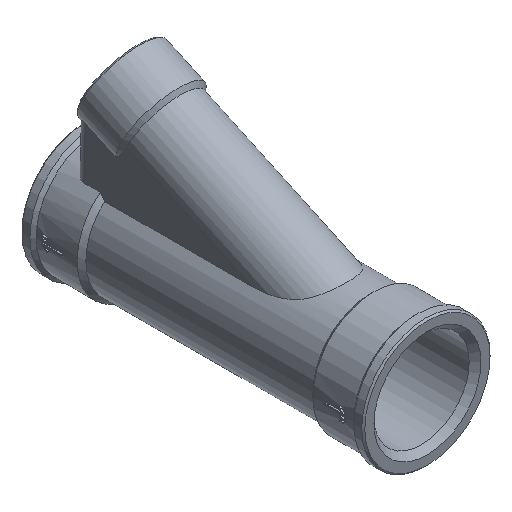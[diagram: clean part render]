
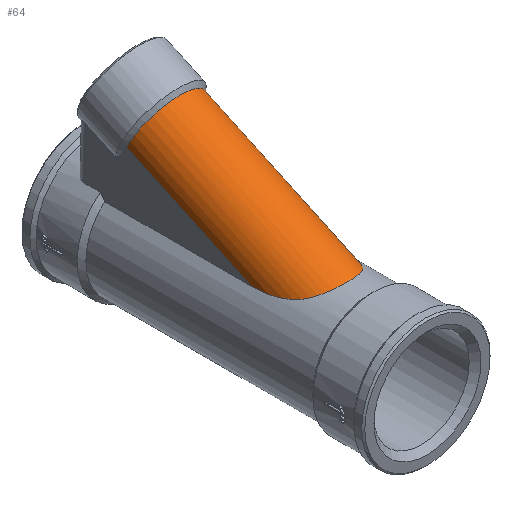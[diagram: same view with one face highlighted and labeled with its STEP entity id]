
A CAD part, isometric view. The second image highlights one B-rep face of the part: STEP entity #64.
In plain terms, the highlighted cylindrical face has radius 12 mm (diameter 24 mm), a partial arc.
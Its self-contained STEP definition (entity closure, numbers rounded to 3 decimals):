
#64=ADVANCED_FACE('',(#398),#400,.T.);
#398=FACE_BOUND('',#399,.T.);
#399=EDGE_LOOP('',(#1649,#1650,#1651,#1652));
#400=CYLINDRICAL_SURFACE('',#401,12.);
#401=AXIS2_PLACEMENT_3D('',#402,#403,#404);
#402=CARTESIAN_POINT('',(0.,0.,0.));
#403=DIRECTION('',(0.,0.906,0.423));
#404=DIRECTION('',(-1.,0.,0.));
#1649=ORIENTED_EDGE('',*,*,#2719,.F.);
#1650=ORIENTED_EDGE('',*,*,#2736,.T.);
#1651=ORIENTED_EDGE('',*,*,#2739,.T.);
#1652=ORIENTED_EDGE('',*,*,#2721,.T.);
#2719=EDGE_CURVE('',#3220,#3218,#3222,.F.);
#2721=EDGE_CURVE('',#3225,#3218,#3226,.T.);
#2736=EDGE_CURVE('',#3220,#3248,#3250,.F.);
#2739=EDGE_CURVE('',#3248,#3225,#3255,.T.);
#3218=VERTEX_POINT('',#4466);
#3220=VERTEX_POINT('',#4506);
#3222=CIRCLE('',#4537,12.);
#3225=VERTEX_POINT('',#4545);
#3226=LINE('',#4546,#4547);
#3248=VERTEX_POINT('',#4668);
#3250=LINE('',#4672,#4673);
#3255=B_SPLINE_CURVE_WITH_KNOTS('',3,
(#4685,#4686,#4687,#4688,#4689,#4690,#4691,#4692,#4693,#4694,#4695,#4696,#4697,#4698,
#4699,#4700,#4701,#4702,#4703,#4704,#4705,#4706,#4707,#4708,#4709,#4710,#4711,#4712,
#4713,#4714,#4715,#4716,#4717,#4718,#4719,#4720,#4721,#4722,#4723,#4724,#4725,#4726,
#4727,#4728,#4729,#4730,#4731,#4732,#4733,#4734,#4735,#4736,#4737,#4738,#4739,#4740,
#4741,#4742,#4743,#4744,#4745,#4746,#4747,#4748,#4749,#4750,#4751,#4752,#4753,#4754,
#4755,#4756,#4757,#4758,#4759,#4760,#4761,#4762,#4763,#4764,#4765,#4766,#4767,#4768,
#4769,#4770),
.UNSPECIFIED.,.F.,.F.,
(4,1,1,1,1,1,1,1,1,1,1,1,1,1,1,1,1,1,1,1,1,1,1,1,1,1,1,1,1,1,1,1,1,1,1,1,1,1,1,1,
1,1,1,1,1,1,1,1,1,1,1,1,1,1,1,1,1,1,1,1,1,1,1,1,1,1,1,1,1,1,1,1,1,1,1,1,1,1,1,1,
1,1,1,4),
(0.,0.004,0.01,0.021,0.037,
0.06,0.086,0.107,0.123,0.134,
0.143,0.152,0.161,0.17,0.179,
0.188,0.197,0.207,0.216,0.225,
0.234,0.242,0.251,0.262,0.273,
0.284,0.291,0.299,0.307,0.315,
0.328,0.346,0.368,0.39,0.407,
0.422,0.436,0.453,0.471,0.491,
0.5,0.51,0.53,0.549,0.57,
0.591,0.61,0.628,0.645,0.66,
0.672,0.681,0.691,0.701,0.712,
0.719,0.726,0.732,0.739,0.746,
0.752,0.762,0.771,0.781,0.789,
0.796,0.808,0.819,0.831,0.84,
0.85,0.86,0.87,0.881,0.891,
0.903,0.914,0.926,0.938,0.95,
0.962,0.974,0.987,1.),
.UNSPECIFIED.);
#4466=CARTESIAN_POINT('',(12.,68.472,31.929));
#4506=CARTESIAN_POINT('',(-12.,68.472,31.929));
#4537=AXIS2_PLACEMENT_3D('',#4538,#4539,#4540);
#4538=CARTESIAN_POINT('',(0.,68.472,31.929));
#4539=DIRECTION('',(0.,-0.906,-0.423));
#4540=DIRECTION('',(1.,0.,0.));
#4545=CARTESIAN_POINT('',(12.,28.772,13.416));
#4546=CARTESIAN_POINT('',(12.,28.772,13.416));
#4547=VECTOR('',#4548,1.);
#4548=DIRECTION('',(0.,0.906,0.423));
#4668=CARTESIAN_POINT('',(-12.,28.772,13.416));
#4672=CARTESIAN_POINT('',(-12.,28.772,13.416));
#4673=VECTOR('',#4674,1.);
#4674=DIRECTION('',(0.,0.906,0.423));
#4685=CARTESIAN_POINT('',(-12.,28.772,13.416));
#4686=CARTESIAN_POINT('',(-12.,28.704,13.416));
#4687=CARTESIAN_POINT('',(-12.,28.53,13.417));
#4688=CARTESIAN_POINT('',(-11.998,28.175,13.418));
#4689=CARTESIAN_POINT('',(-11.991,27.602,13.425));
#4690=CARTESIAN_POINT('',(-11.971,26.748,13.443));
#4691=CARTESIAN_POINT('',(-11.924,25.635,13.484));
#4692=CARTESIAN_POINT('',(-11.845,24.441,13.554));
#4693=CARTESIAN_POINT('',(-11.743,23.369,13.642));
#4694=CARTESIAN_POINT('',(-11.645,22.564,13.726));
#4695=CARTESIAN_POINT('',(-11.561,21.968,13.797));
#4696=CARTESIAN_POINT('',(-11.486,21.491,13.859));
#4697=CARTESIAN_POINT('',(-11.407,21.038,13.924));
#4698=CARTESIAN_POINT('',(-11.322,20.594,13.993));
#4699=CARTESIAN_POINT('',(-11.228,20.146,14.069));
#4700=CARTESIAN_POINT('',(-11.125,19.696,14.151));
#4701=CARTESIAN_POINT('',(-11.012,19.245,14.239));
#4702=CARTESIAN_POINT('',(-10.889,18.798,14.333));
#4703=CARTESIAN_POINT('',(-10.756,18.356,14.433));
#4704=CARTESIAN_POINT('',(-10.614,17.922,14.538));
#4705=CARTESIAN_POINT('',(-10.462,17.498,14.648));
#4706=CARTESIAN_POINT('',(-10.301,17.085,14.762));
#4707=CARTESIAN_POINT('',(-10.131,16.683,14.879));
#4708=CARTESIAN_POINT('',(-9.935,16.256,15.011));
#4709=CARTESIAN_POINT('',(-9.708,15.806,15.159));
#4710=CARTESIAN_POINT('',(-9.446,15.339,15.323));
#4711=CARTESIAN_POINT('',(-9.196,14.936,15.474));
#4712=CARTESIAN_POINT('',(-8.963,14.591,15.611));
#4713=CARTESIAN_POINT('',(-8.744,14.291,15.734));
#4714=CARTESIAN_POINT('',(-8.507,13.988,15.864));
#4715=CARTESIAN_POINT('',(-8.2,13.626,16.025));
#4716=CARTESIAN_POINT('',(-7.763,13.161,16.244));
#4717=CARTESIAN_POINT('',(-7.124,12.578,16.537));
#4718=CARTESIAN_POINT('',(-6.319,11.982,16.863));
#4719=CARTESIAN_POINT('',(-5.45,11.475,17.163));
#4720=CARTESIAN_POINT('',(-4.644,11.101,17.396));
#4721=CARTESIAN_POINT('',(-3.911,10.827,17.575));
#4722=CARTESIAN_POINT('',(-3.178,10.605,17.723));
#4723=CARTESIAN_POINT('',(-2.365,10.418,17.851));
#4724=CARTESIAN_POINT('',(-1.449,10.277,17.95));
#4725=CARTESIAN_POINT('',(-0.645,10.216,17.994));
#4726=CARTESIAN_POINT('',(0.017,10.204,18.002));
#4727=CARTESIAN_POINT('',(0.679,10.217,17.993));
#4728=CARTESIAN_POINT('',(1.522,10.284,17.945));
#4729=CARTESIAN_POINT('',(2.531,10.447,17.831));
#4730=CARTESIAN_POINT('',(3.532,10.698,17.66));
#4731=CARTESIAN_POINT('',(4.49,11.032,17.44));
#4732=CARTESIAN_POINT('',(5.362,11.431,17.19));
#4733=CARTESIAN_POINT('',(6.135,11.872,16.928));
#4734=CARTESIAN_POINT('',(6.805,12.336,16.669));
#4735=CARTESIAN_POINT('',(7.356,12.787,16.431));
#4736=CARTESIAN_POINT('',(7.785,13.19,16.231));
#4737=CARTESIAN_POINT('',(8.134,13.554,16.059));
#4738=CARTESIAN_POINT('',(8.447,13.913,15.896));
#4739=CARTESIAN_POINT('',(8.755,14.302,15.729));
#4740=CARTESIAN_POINT('',(9.02,14.672,15.578));
#4741=CARTESIAN_POINT('',(9.241,15.009,15.447));
#4742=CARTESIAN_POINT('',(9.419,15.297,15.34));
#4743=CARTESIAN_POINT('',(9.58,15.578,15.239));
#4744=CARTESIAN_POINT('',(9.733,15.86,15.142));
#4745=CARTESIAN_POINT('',(9.882,16.152,15.045));
#4746=CARTESIAN_POINT('',(10.043,16.489,14.938));
#4747=CARTESIAN_POINT('',(10.214,16.875,14.822));
#4748=CARTESIAN_POINT('',(10.391,17.312,14.698));
#4749=CARTESIAN_POINT('',(10.547,17.73,14.587));
#4750=CARTESIAN_POINT('',(10.682,18.128,14.488));
#4751=CARTESIAN_POINT('',(10.816,18.551,14.388));
#4752=CARTESIAN_POINT('',(10.957,19.038,14.281));
#4753=CARTESIAN_POINT('',(11.102,19.596,14.169));
#4754=CARTESIAN_POINT('',(11.225,20.128,14.071));
#4755=CARTESIAN_POINT('',(11.33,20.634,13.987));
#4756=CARTESIAN_POINT('',(11.421,21.113,13.913));
#4757=CARTESIAN_POINT('',(11.506,21.611,13.843));
#4758=CARTESIAN_POINT('',(11.585,22.13,13.777));
#4759=CARTESIAN_POINT('',(11.658,22.666,13.715));
#4760=CARTESIAN_POINT('',(11.724,23.222,13.658));
#4761=CARTESIAN_POINT('',(11.783,23.792,13.607));
#4762=CARTESIAN_POINT('',(11.835,24.376,13.562));
#4763=CARTESIAN_POINT('',(11.88,24.971,13.523));
#4764=CARTESIAN_POINT('',(11.917,25.579,13.49));
#4765=CARTESIAN_POINT('',(11.948,26.199,13.463));
#4766=CARTESIAN_POINT('',(11.971,26.831,13.442));
#4767=CARTESIAN_POINT('',(11.988,27.471,13.427));
#4768=CARTESIAN_POINT('',(11.998,28.12,13.418));
#4769=CARTESIAN_POINT('',(12.,28.554,13.416));
#4770=CARTESIAN_POINT('',(12.,28.772,13.416));
